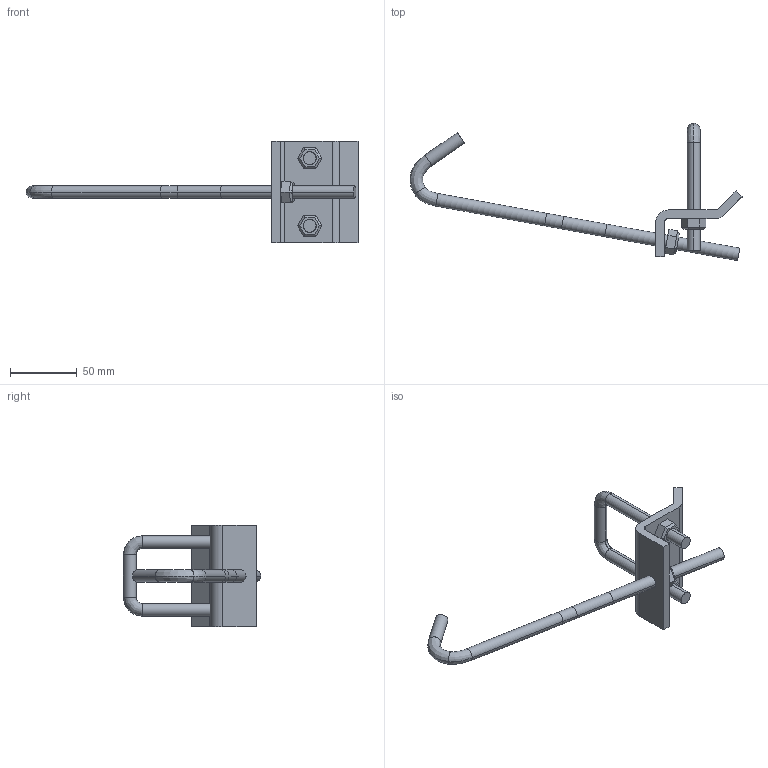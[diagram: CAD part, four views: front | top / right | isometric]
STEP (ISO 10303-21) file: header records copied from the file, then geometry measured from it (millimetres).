
FILE_DESCRIPTION(('TurboCAD Mac Pro'),'Build 980');
FILE_NAME('P2867-9.stp',' ',(''),(''),'ACIS Interop','IMSI','TurboCAD Mac Pro BY IMSI, INCORPORATED');
FILE_SCHEMA(('automotive_design'));
Length unit declared in the file: inch
Products named in the file (6): 1; 2; 3; 4; 5; 6
Bounding box: 249.56 x 103.13 x 76.2 mm (x, y, z)
Volume: 86025.2 mm3; surface area: 35448.9 mm2
Topology: 6 solids, 6 shells, 100 faces, 226 edges, 138 vertices
Faces by surface type: plane 56, bspline 24, cylinder 20
Entity records: 5660 total; most frequent: CARTESIAN_POINT 1602, ORIENTED_EDGE 452, DIRECTION 382, STYLED_ITEM 308, PRESENTATION_STYLE_ASSIGNMENT 308, COLOUR_RGB 308, EDGE_CURVE 226, CURVE_STYLE 202
